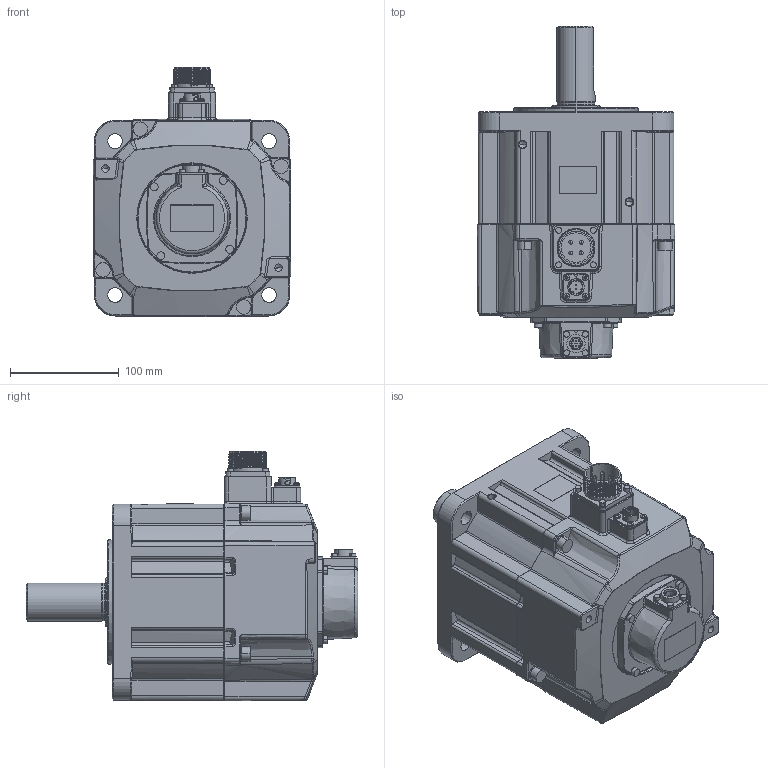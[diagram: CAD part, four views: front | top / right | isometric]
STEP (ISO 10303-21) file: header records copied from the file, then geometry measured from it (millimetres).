
FILE_DESCRIPTION((''),'2;1');
FILE_NAME('ECM-B3M-FX1845SS1','2021-05-10T14:42:13',('MIO.CHEN'),(''),'CREO PARAMETRIC BY PTC INC, 2017110','CREO PARAMETRIC BY PTC INC, 2017110','');
FILE_SCHEMA(('CONFIG_CONTROL_DESIGN'));
Products named in the file (1): ECM-B3M-FX1845SS1
Bounding box: 181.48 x 305 x 229.44 mm (x, y, z)
Volume: 5500007.3 mm3; surface area: 248136.4 mm2
Topology: 1 solids, 5 shells, 1794 faces, 4519 edges, 2813 vertices
Faces by surface type: cylinder 578, plane 520, bspline 311, cone 208, torus 162, sphere 15
Entity records: 88566 total; most frequent: CARTESIAN_POINT 48109, ORIENTED_EDGE 9006, DIRECTION 7676, EDGE_CURVE 4503, AXIS2_PLACEMENT_3D 3007, VERTEX_POINT 2813, EDGE_LOOP 1908, FACE_OUTER_BOUND 1794
